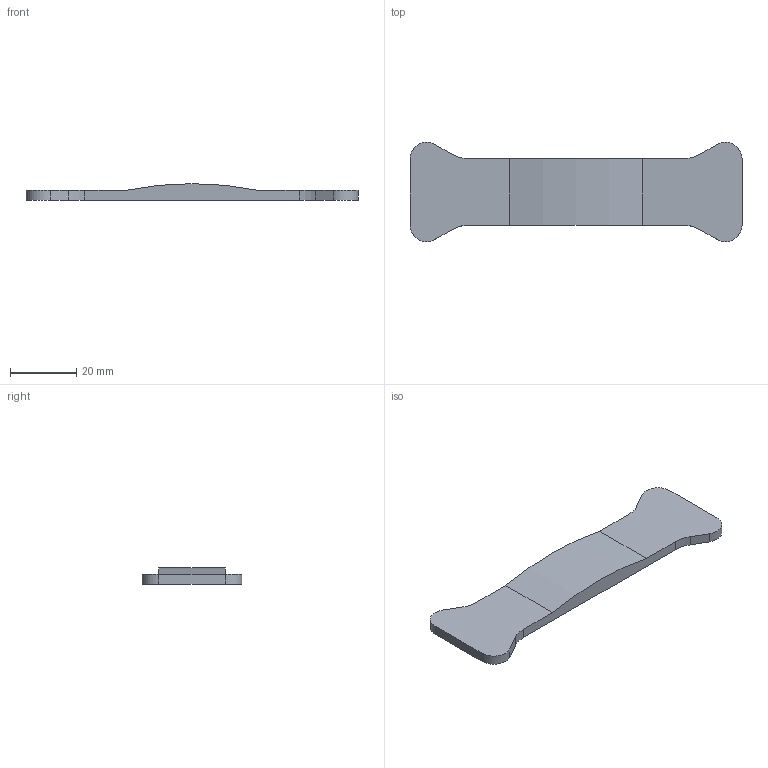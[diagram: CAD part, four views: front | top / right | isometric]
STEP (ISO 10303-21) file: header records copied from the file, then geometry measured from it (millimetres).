
FILE_DESCRIPTION(/* description */ (''),/* implementation_level */ '2;1');
FILE_NAME(/* name */ 'light_switch_plate v9.step',/* time_stamp */ '2026-04-10T14:23:16+02:00',/* author */ (''),/* organization */ (''),/* preprocessor_version */ 'ST-DEVELOPER v20.1',/* originating_system */ 'Autodesk Translation Framework v14.24.0.0',/* authorisation */ '');
FILE_SCHEMA (('AUTOMOTIVE_DESIGN { 1 0 10303 214 3 1 1 }'));
Length unit declared in the file: millimetre
Products named in the file (1): (Niezapisany)
Bounding box: 100 x 30 x 5.02 mm (x, y, z)
Volume: 7661.1 mm3; surface area: 5269.1 mm2
Topology: 1 solids, 1 shells, 20 faces, 54 edges, 36 vertices
Faces by surface type: plane 11, cylinder 9
Entity records: 669 total; most frequent: DIRECTION 114, CARTESIAN_POINT 111, ORIENTED_EDGE 108, EDGE_CURVE 54, AXIS2_PLACEMENT_3D 39, LINE 36, VECTOR 36, VERTEX_POINT 36
